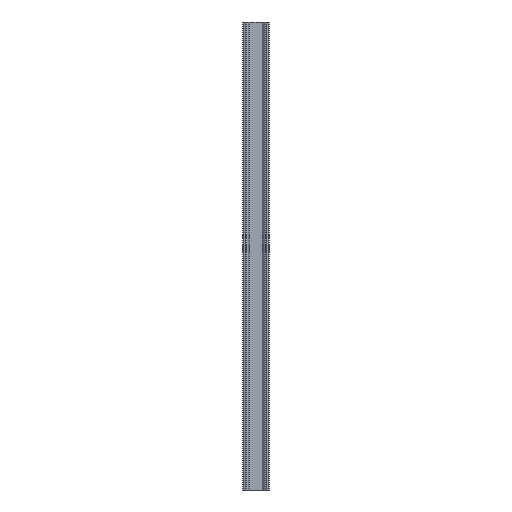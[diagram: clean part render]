
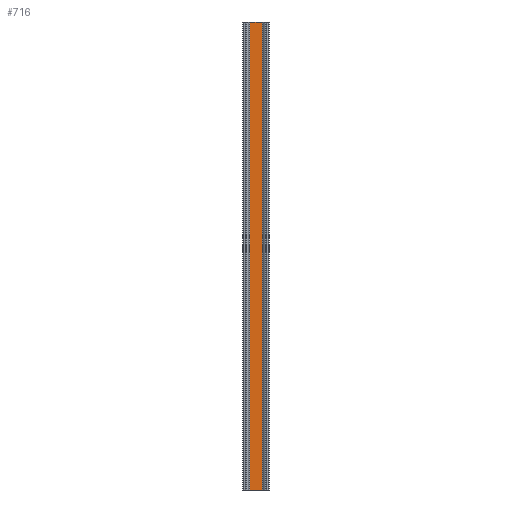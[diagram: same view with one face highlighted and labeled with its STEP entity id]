
A CAD part, front view. The second image highlights one B-rep face of the part: STEP entity #716.
In plain terms, the highlighted planar face has unit normal (0, -1, 0).
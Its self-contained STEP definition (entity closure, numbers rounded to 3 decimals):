
#20=PLANE('',#768);
#46=FACE_OUTER_BOUND('',#84,.T.);
#84=EDGE_LOOP('',(#515,#516,#517,#518));
#132=LINE('',#1110,#204);
#133=LINE('',#1113,#205);
#134=LINE('',#1115,#206);
#135=LINE('',#1116,#207);
#204=VECTOR('',#888,200.);
#205=VECTOR('',#891,5.283);
#206=VECTOR('',#892,5.283);
#207=VECTOR('',#893,200.);
#313=VERTEX_POINT('',#1106);
#314=VERTEX_POINT('',#1108);
#315=VERTEX_POINT('',#1112);
#316=VERTEX_POINT('',#1114);
#396=EDGE_CURVE('',#313,#314,#132,.T.);
#397=EDGE_CURVE('',#313,#315,#133,.T.);
#398=EDGE_CURVE('',#316,#314,#134,.T.);
#399=EDGE_CURVE('',#315,#316,#135,.T.);
#515=ORIENTED_EDGE('',*,*,#397,.F.);
#516=ORIENTED_EDGE('',*,*,#396,.T.);
#517=ORIENTED_EDGE('',*,*,#398,.F.);
#518=ORIENTED_EDGE('',*,*,#399,.F.);
#716=ADVANCED_FACE('',(#46),#20,.T.);
#768=AXIS2_PLACEMENT_3D('',#1111,#889,#890);
#888=DIRECTION('',(0.,0.,1.));
#889=DIRECTION('center_axis',(0.,-1.,0.));
#890=DIRECTION('ref_axis',(1.,0.,0.));
#891=DIRECTION('',(-1.,0.,0.));
#892=DIRECTION('',(1.,0.,0.));
#893=DIRECTION('',(0.,0.,1.));
#1106=CARTESIAN_POINT('',(8.477,5.853,0.));
#1108=CARTESIAN_POINT('',(8.477,5.853,200.));
#1110=CARTESIAN_POINT('',(8.477,5.853,0.));
#1111=CARTESIAN_POINT('Origin',(3.194,5.853,0.));
#1112=CARTESIAN_POINT('',(3.194,5.853,0.));
#1113=CARTESIAN_POINT('',(8.477,5.853,0.));
#1114=CARTESIAN_POINT('',(3.194,5.853,200.));
#1115=CARTESIAN_POINT('',(8.477,5.853,200.));
#1116=CARTESIAN_POINT('',(3.194,5.853,0.));
